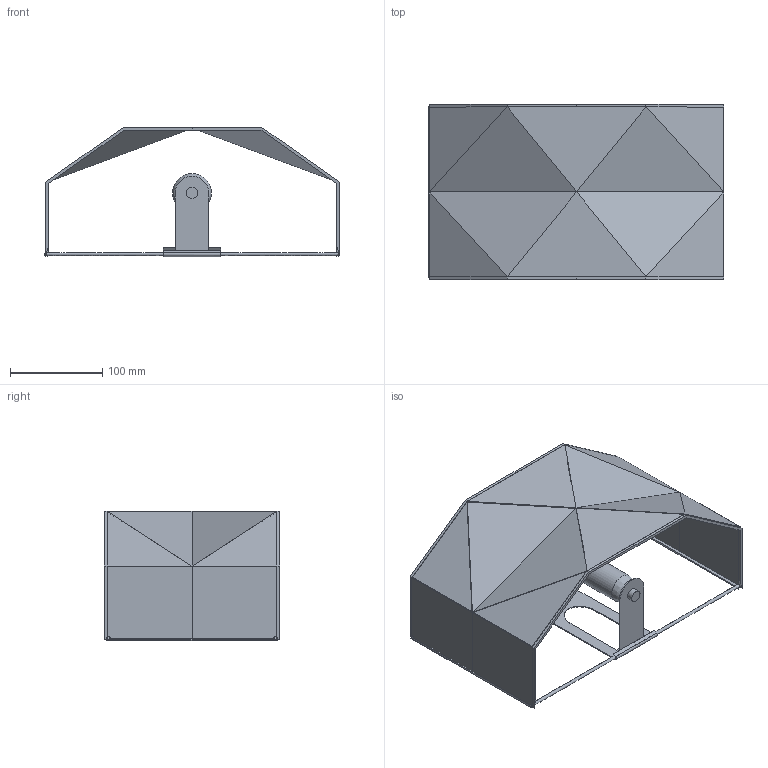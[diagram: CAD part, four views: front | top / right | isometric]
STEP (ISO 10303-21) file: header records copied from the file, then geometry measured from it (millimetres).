
FILE_DESCRIPTION(/* description */ (''),/* implementation_level */ '2;1');
FILE_NAME(/* name */ 'C:/Users/kubaw/OneDrive/Pulpit/3D/JAKUB_WIECZORKOWSKI_MAJ_PACZKA/OK/3315_KANTOR v4.step',/* time_stamp */ '2021-06-16T16:54:31+02:00',/* author */ (''),/* organization */ (''),/* preprocessor_version */ 'ST-DEVELOPER v18.1',/* originating_system */ 'Autodesk Translation Framework v10.9.0.1377',/* authorisation */ '');
FILE_SCHEMA (('AUTOMOTIVE_DESIGN { 1 0 10303 214 3 1 1 }'));
Length unit declared in the file: millimetre
Products named in the file (1): 3315_KANTOR
Bounding box: 319.9 x 190 x 140 mm (x, y, z)
Volume: 199080.5 mm3; surface area: 260802.8 mm2
Topology: 30 solids, 30 shells, 197 faces, 415 edges, 280 vertices
Faces by surface type: plane 164, cylinder 18, bspline 15
Full cylindrical faces by diameter (mm): 4 x1, 9.737 x1, 12.54 x2, 29.26 x1, 31.35 x1, 41.8 x1
Entity records: 5881 total; most frequent: CARTESIAN_POINT 1612, DIRECTION 831, ORIENTED_EDGE 830, EDGE_CURVE 415, LINE 329, VECTOR 329, VERTEX_POINT 280, AXIS2_PLACEMENT_3D 251
